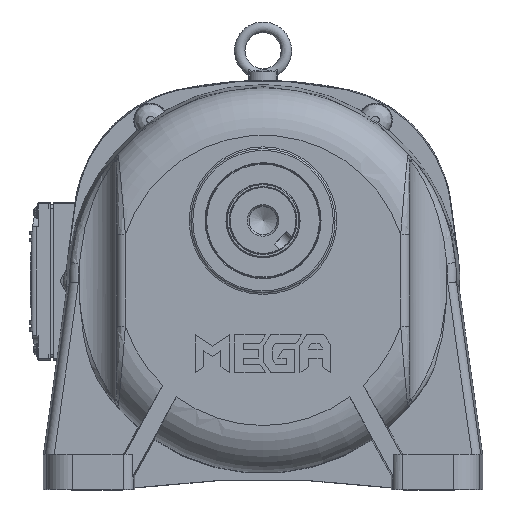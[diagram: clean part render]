
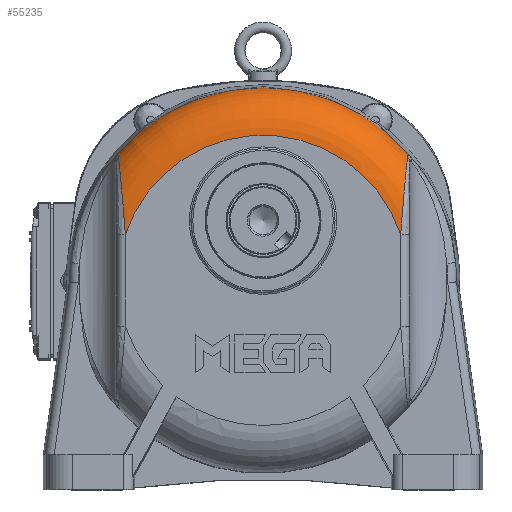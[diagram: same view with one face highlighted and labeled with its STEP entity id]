
A CAD part, top view. The second image highlights one B-rep face of the part: STEP entity #55235.
In plain terms, the highlighted toroidal (fillet/blend) face has major radius 82.608 mm and minor radius 27 mm.
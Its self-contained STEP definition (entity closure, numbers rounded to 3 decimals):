
#7001=TOROIDAL_SURFACE('',#59615,82.608,27.);
#9435=FACE_OUTER_BOUND('',#12828,.T.);
#12828=EDGE_LOOP('',(#38587,#38588,#38589,#38590,#38591,#38592));
#16412=CIRCLE('',#59616,109.599);
#16413=CIRCLE('',#59617,82.608);
#18897=B_SPLINE_CURVE_WITH_KNOTS('',3,(#87545,#87546,#87547,#87548,#87549,
#87550,#87551,#87552,#87553),.UNSPECIFIED.,.F.,.F.,(4,1,1,1,1,1,4),(-4.523,
-3.23,-2.584,-1.615,-1.292,
-0.646,0.),.UNSPECIFIED.);
#18898=B_SPLINE_CURVE_WITH_KNOTS('',3,(#87576,#87577,#87578,#87579,#87580),
 .UNSPECIFIED.,.F.,.F.,(4,1,4),(-0.729,-0.416,0.),
 .UNSPECIFIED.);
#18904=B_SPLINE_CURVE_WITH_KNOTS('',3,(#87713,#87714,#87715,#87716,#87717,
#87718,#87719,#87720),.UNSPECIFIED.,.F.,.F.,(4,1,1,1,1,4),(-14.257,
-13.611,-12.965,-11.673,-11.027,
-9.735),.UNSPECIFIED.);
#18905=B_SPLINE_CURVE_WITH_KNOTS('',3,(#87722,#87723,#87724,#87725,#87726),
 .UNSPECIFIED.,.F.,.F.,(4,1,4),(-0.728,-0.312,0.),
 .UNSPECIFIED.);
#22393=VERTEX_POINT('',#87487);
#22394=VERTEX_POINT('',#87544);
#22395=VERTEX_POINT('',#87575);
#22402=VERTEX_POINT('',#87711);
#22403=VERTEX_POINT('',#87712);
#22404=VERTEX_POINT('',#87721);
#28299=EDGE_CURVE('',#22393,#22394,#18897,.T.);
#28301=EDGE_CURVE('',#22394,#22395,#18898,.T.);
#28314=EDGE_CURVE('',#22402,#22403,#18904,.T.);
#28315=EDGE_CURVE('',#22404,#22402,#18905,.T.);
#28316=EDGE_CURVE('',#22395,#22404,#16412,.F.);
#28317=EDGE_CURVE('',#22393,#22403,#16413,.T.);
#38587=ORIENTED_EDGE('',*,*,#28314,.F.);
#38588=ORIENTED_EDGE('',*,*,#28315,.F.);
#38589=ORIENTED_EDGE('',*,*,#28316,.F.);
#38590=ORIENTED_EDGE('',*,*,#28301,.F.);
#38591=ORIENTED_EDGE('',*,*,#28299,.F.);
#38592=ORIENTED_EDGE('',*,*,#28317,.T.);
#55235=ADVANCED_FACE('',(#9435),#7001,.T.);
#59615=AXIS2_PLACEMENT_3D('',#87710,#68680,#68681);
#59616=AXIS2_PLACEMENT_3D('',#87727,#68682,#68683);
#59617=AXIS2_PLACEMENT_3D('',#87728,#68684,#68685);
#68680=DIRECTION('center_axis',(0.,0.,-1.));
#68681=DIRECTION('ref_axis',(-1.,0.,0.));
#68682=DIRECTION('center_axis',(0.,0.,1.));
#68683=DIRECTION('ref_axis',(-1.,0.,0.));
#68684=DIRECTION('center_axis',(0.,0.,-1.));
#68685=DIRECTION('ref_axis',(-1.,0.,0.));
#87487=CARTESIAN_POINT('',(-87.124,11.96,58.75));
#87544=CARTESIAN_POINT('',(-90.953,55.881,41.011));
#87545=CARTESIAN_POINT('Ctrl Pts',(-87.124,11.96,58.75));
#87546=CARTESIAN_POINT('Ctrl Pts',(-87.418,16.371,58.75));
#87547=CARTESIAN_POINT('Ctrl Pts',(-87.937,23.068,58.533));
#87548=CARTESIAN_POINT('Ctrl Pts',(-88.818,33.346,56.852));
#87549=CARTESIAN_POINT('Ctrl Pts',(-89.431,40.144,54.699));
#87550=CARTESIAN_POINT('Ctrl Pts',(-90.028,46.597,51.259));
#87551=CARTESIAN_POINT('Ctrl Pts',(-90.502,51.585,47.509));
#87552=CARTESIAN_POINT('Ctrl Pts',(-90.823,54.725,43.334));
#87553=CARTESIAN_POINT('Ctrl Pts',(-90.953,55.881,41.011));
#87575=CARTESIAN_POINT('',(-92.265,56.853,32.457));
#87576=CARTESIAN_POINT('Ctrl Pts',(-90.953,55.881,41.011));
#87577=CARTESIAN_POINT('Ctrl Pts',(-91.016,56.439,39.889));
#87578=CARTESIAN_POINT('Ctrl Pts',(-91.269,57.425,37.053));
#87579=CARTESIAN_POINT('Ctrl Pts',(-91.862,57.264,34.021));
#87580=CARTESIAN_POINT('Ctrl Pts',(-92.265,56.853,32.457));
#87710=CARTESIAN_POINT('Origin',(-8.736,-14.104,31.75));
#87711=CARTESIAN_POINT('',(73.481,55.881,41.011));
#87712=CARTESIAN_POINT('',(69.652,11.96,58.75));
#87713=CARTESIAN_POINT('Ctrl Pts',(73.481,55.881,41.011));
#87714=CARTESIAN_POINT('Ctrl Pts',(73.351,54.726,43.334));
#87715=CARTESIAN_POINT('Ctrl Pts',(73.031,51.596,47.497));
#87716=CARTESIAN_POINT('Ctrl Pts',(72.274,43.624,53.495));
#87717=CARTESIAN_POINT('Ctrl Pts',(71.441,34.455,56.674));
#87718=CARTESIAN_POINT('Ctrl Pts',(70.47,23.135,58.524));
#87719=CARTESIAN_POINT('Ctrl Pts',(69.946,16.375,58.75));
#87720=CARTESIAN_POINT('Ctrl Pts',(69.652,11.96,58.75));
#87721=CARTESIAN_POINT('',(74.792,56.853,32.457));
#87722=CARTESIAN_POINT('Ctrl Pts',(74.792,56.853,32.457));
#87723=CARTESIAN_POINT('Ctrl Pts',(74.39,57.264,34.021));
#87724=CARTESIAN_POINT('Ctrl Pts',(73.803,57.43,37.013));
#87725=CARTESIAN_POINT('Ctrl Pts',(73.544,56.439,39.889));
#87726=CARTESIAN_POINT('Ctrl Pts',(73.481,55.881,41.011));
#87727=CARTESIAN_POINT('Origin',(-8.736,-14.104,32.457));
#87728=CARTESIAN_POINT('Origin',(-8.736,-14.104,58.75));
